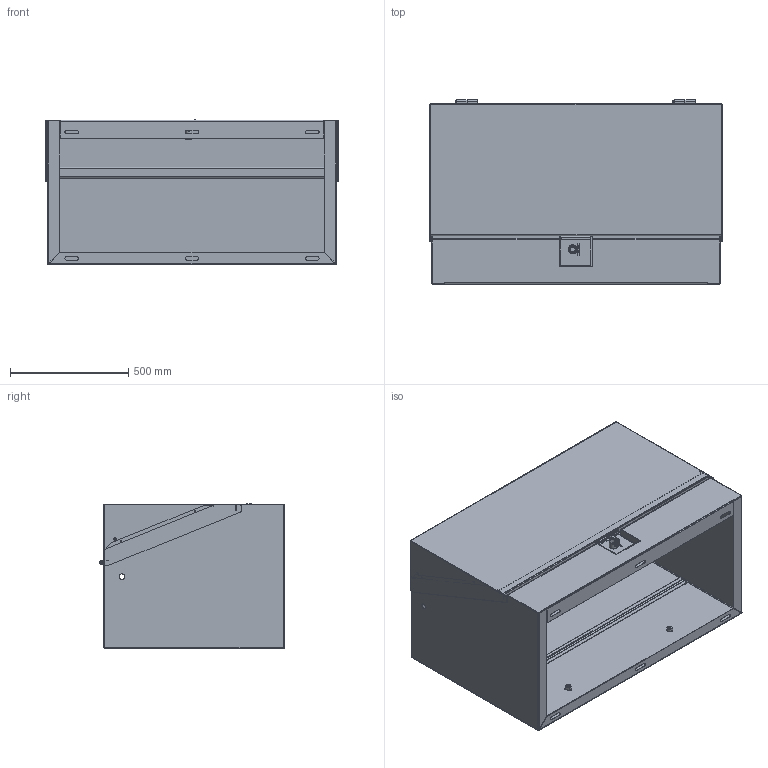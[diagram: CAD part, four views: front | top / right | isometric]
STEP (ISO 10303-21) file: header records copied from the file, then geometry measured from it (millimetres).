
FILE_DESCRIPTION (( 'STEP AP203' ), '1' );
FILE_NAME ('uj304824m2.STEP', '2009-03-24T13:09:52', ( '' ), ( '' ), 'SwSTEP 2.0', 'SolidWorks 2007', '' );
FILE_SCHEMA (( 'CONFIG_CONTROL_DESIGN' ));
Length unit declared in the file: inch
Products named in the file (25): 87923650_87923650; 99406298_99406298; 87923149_87923149; 87921624_87921624; 87922224_87922224; 87923179_87923179; 87929743_87929743; 87923621_87923621; 87923629_87923629; 87937248_87937248; uj304824m2; 87923635_87923635; 87937250_87937250; 87923657_87923657; 87923147_87923147; 22112003_22112003; 87921622_87921621; 87929200_87929199; 87929218_87929218; 87550640_87550640; 87933708_87933708; 87921618_87921618; 87933992_87933992; 87921634_87921634; 87929216_87929216
Assembly tree (32 placements, depth 3):
  uj304824m2
    87937250_87937250
      87921622_87921621  x2
      87923621_87923621
      87929743_87929743
      22112003_22112003  x2
      87923149_87923149
      87923147_87923147  x2
    87937248_87937248
      87923635_87923635  x2
      99406298_99406298  x2
      87922224_87922224  x2
      87923657_87923657
      87923629_87923629
      87923650_87923650
      87923179_87923179
    87550640_87550640  x2
    87933992_87933992
      87921634_87921634
      87929216_87929216
    87929200_87929199  x2
    87933708_87933708
      87921618_87921618
      87929218_87929218
    87921624_87921624
Bounding box: 1235.05 x 778.87 x 612.22 mm (x, y, z)
Volume: 10449528.1 mm3; surface area: 8525080.8 mm2
Topology: 30 solids, 30 shells, 937 faces, 2175 edges, 1339 vertices
Faces by surface type: plane 510, cylinder 315, torus 62, cone 42, bspline 8
Entity records: 25239 total; most frequent: CARTESIAN_POINT 4976, DIRECTION 3722, ORIENTED_EDGE 3460, EDGE_CURVE 1730, AXIS2_PLACEMENT_3D 1327, VECTOR 1068, LINE 1068, VERTEX_POINT 1067
